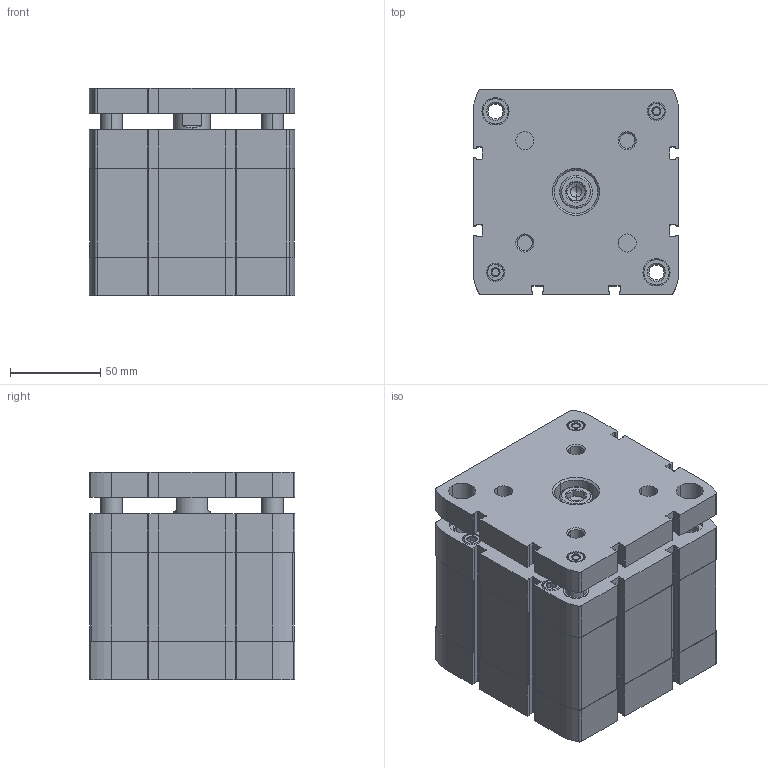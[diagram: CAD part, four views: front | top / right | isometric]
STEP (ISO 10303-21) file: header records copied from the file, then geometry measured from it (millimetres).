
FILE_DESCRIPTION (( 'STEP AP203' ), '1' );
FILE_NAME ('CCNG100-25.STEP', '2017-04-20T18:07:04', ( '' ), ( '' ), 'SwSTEP 2.0', 'SolidWorks 2016', '' );
FILE_SCHEMA (( 'CONFIG_CONTROL_DESIGN' ));
Length unit declared in the file: millimetre
Products named in the file (3): CCNG-100-25---(Z); CCNG-100-25---(KS); CCNG100-25
Assembly tree (2 placements, depth 2):
  CCNG100-25
    CCNG-100-25---(Z)
    CCNG-100-25---(KS)
Bounding box: 113.5 x 113.5 x 115 mm (x, y, z)
Volume: 1103274.5 mm3; surface area: 190873 mm2
Topology: 2 solids, 4 shells, 797 faces, 2098 edges, 1347 vertices
Faces by surface type: plane 343, cylinder 304, cone 144, bspline 6
Entity records: 25497 total; most frequent: CARTESIAN_POINT 5013, DIRECTION 4398, ORIENTED_EDGE 4160, EDGE_CURVE 2080, AXIS2_PLACEMENT_3D 1616, VERTEX_POINT 1347, VECTOR 1166, LINE 1166
